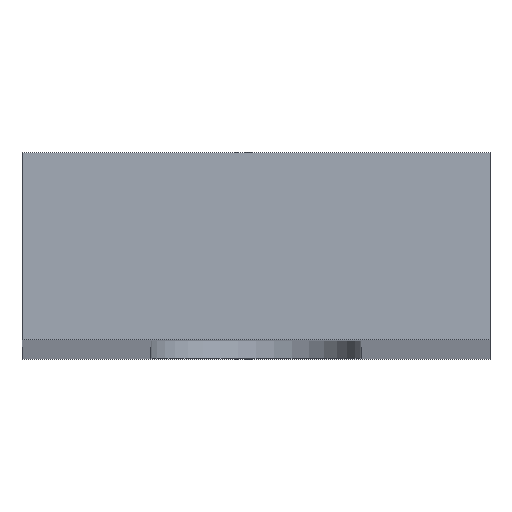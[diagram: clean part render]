
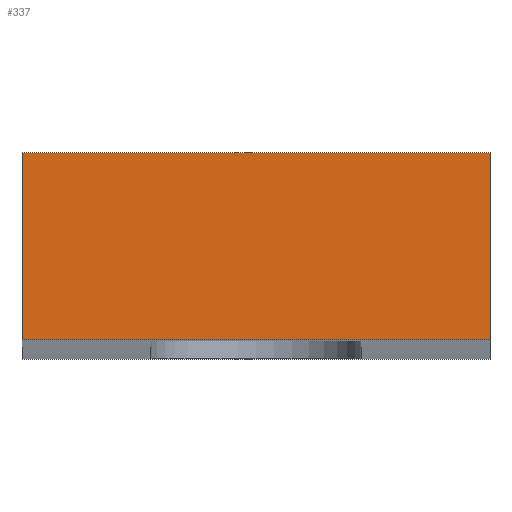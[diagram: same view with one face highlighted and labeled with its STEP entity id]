
A CAD part, top view. The second image highlights one B-rep face of the part: STEP entity #337.
In plain terms, the highlighted planar face has unit normal (0, 0, 1).
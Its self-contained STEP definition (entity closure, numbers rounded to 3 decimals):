
#24 = VERTEX_POINT('',#25);
#25 = CARTESIAN_POINT('',(-35.,-28.,120.));
#32 = PLANE('',#33);
#33 = AXIS2_PLACEMENT_3D('',#34,#35,#36);
#34 = CARTESIAN_POINT('',(-35.,-28.,-120.));
#35 = DIRECTION('',(-1.,-0.,0.));
#36 = DIRECTION('',(0.,0.,-1.));
#44 = PLANE('',#45);
#45 = AXIS2_PLACEMENT_3D('',#46,#47,#48);
#46 = CARTESIAN_POINT('',(-35.,-28.,-120.));
#47 = DIRECTION('',(-0.,1.,0.));
#48 = DIRECTION('',(0.,0.,-1.));
#85 = VERTEX_POINT('',#86);
#86 = CARTESIAN_POINT('',(-35.,-24.,120.));
#100 = PLANE('',#101);
#101 = AXIS2_PLACEMENT_3D('',#102,#103,#104);
#102 = CARTESIAN_POINT('',(-35.,-24.,-120.));
#103 = DIRECTION('',(-0.,1.,0.));
#104 = DIRECTION('',(0.,0.,-1.));
#112 = EDGE_CURVE('',#24,#85,#113,.T.);
#113 = SURFACE_CURVE('',#114,(#118,#125),.PCURVE_S1.);
#114 = LINE('',#115,#116);
#115 = CARTESIAN_POINT('',(-35.,-28.,120.));
#116 = VECTOR('',#117,1.);
#117 = DIRECTION('',(-0.,1.,0.));
#118 = PCURVE('',#32,#119);
#119 = DEFINITIONAL_REPRESENTATION('',(#120),#124);
#120 = LINE('',#121,#122);
#121 = CARTESIAN_POINT('',(-240.,-0.));
#122 = VECTOR('',#123,1.);
#123 = DIRECTION('',(-0.,-1.));
#124 = ( GEOMETRIC_REPRESENTATION_CONTEXT(2)
PARAMETRIC_REPRESENTATION_CONTEXT() REPRESENTATION_CONTEXT('2D SPACE',''
  ) );
#125 = PCURVE('',#126,#131);
#126 = PLANE('',#127);
#127 = AXIS2_PLACEMENT_3D('',#128,#129,#130);
#128 = CARTESIAN_POINT('',(-35.,-28.,120.));
#129 = DIRECTION('',(0.,0.,1.));
#130 = DIRECTION('',(1.,0.,0.));
#131 = DEFINITIONAL_REPRESENTATION('',(#132),#136);
#132 = LINE('',#133,#134);
#133 = CARTESIAN_POINT('',(0.,-0.));
#134 = VECTOR('',#135,1.);
#135 = DIRECTION('',(-0.,1.));
#136 = ( GEOMETRIC_REPRESENTATION_CONTEXT(2)
PARAMETRIC_REPRESENTATION_CONTEXT() REPRESENTATION_CONTEXT('2D SPACE',''
  ) );
#165 = EDGE_CURVE('',#24,#166,#168,.T.);
#166 = VERTEX_POINT('',#167);
#167 = CARTESIAN_POINT('',(-45.,-28.,120.));
#168 = SURFACE_CURVE('',#169,(#173,#180),.PCURVE_S1.);
#169 = LINE('',#170,#171);
#170 = CARTESIAN_POINT('',(-35.,-28.,120.));
#171 = VECTOR('',#172,1.);
#172 = DIRECTION('',(-1.,-0.,0.));
#173 = PCURVE('',#44,#174);
#174 = DEFINITIONAL_REPRESENTATION('',(#175),#179);
#175 = LINE('',#176,#177);
#176 = CARTESIAN_POINT('',(-240.,-0.));
#177 = VECTOR('',#178,1.);
#178 = DIRECTION('',(-0.,1.));
#179 = ( GEOMETRIC_REPRESENTATION_CONTEXT(2)
PARAMETRIC_REPRESENTATION_CONTEXT() REPRESENTATION_CONTEXT('2D SPACE',''
  ) );
#180 = PCURVE('',#126,#181);
#181 = DEFINITIONAL_REPRESENTATION('',(#182),#186);
#182 = LINE('',#183,#184);
#183 = CARTESIAN_POINT('',(0.,-0.));
#184 = VECTOR('',#185,1.);
#185 = DIRECTION('',(-1.,0.));
#186 = ( GEOMETRIC_REPRESENTATION_CONTEXT(2)
PARAMETRIC_REPRESENTATION_CONTEXT() REPRESENTATION_CONTEXT('2D SPACE',''
  ) );
#202 = PLANE('',#203);
#203 = AXIS2_PLACEMENT_3D('',#204,#205,#206);
#204 = CARTESIAN_POINT('',(-45.,-28.,-120.));
#205 = DIRECTION('',(-1.,-0.,0.));
#206 = DIRECTION('',(0.,0.,-1.));
#337 = ADVANCED_FACE('',(#338),#126,.T.);
#338 = FACE_BOUND('',#339,.F.);
#339 = EDGE_LOOP('',(#340,#341,#342,#365));
#340 = ORIENTED_EDGE('',*,*,#112,.F.);
#341 = ORIENTED_EDGE('',*,*,#165,.T.);
#342 = ORIENTED_EDGE('',*,*,#343,.T.);
#343 = EDGE_CURVE('',#166,#344,#346,.T.);
#344 = VERTEX_POINT('',#345);
#345 = CARTESIAN_POINT('',(-45.,-24.,120.));
#346 = SURFACE_CURVE('',#347,(#351,#358),.PCURVE_S1.);
#347 = LINE('',#348,#349);
#348 = CARTESIAN_POINT('',(-45.,-28.,120.));
#349 = VECTOR('',#350,1.);
#350 = DIRECTION('',(-0.,1.,0.));
#351 = PCURVE('',#126,#352);
#352 = DEFINITIONAL_REPRESENTATION('',(#353),#357);
#353 = LINE('',#354,#355);
#354 = CARTESIAN_POINT('',(-10.,0.));
#355 = VECTOR('',#356,1.);
#356 = DIRECTION('',(-0.,1.));
#357 = ( GEOMETRIC_REPRESENTATION_CONTEXT(2)
PARAMETRIC_REPRESENTATION_CONTEXT() REPRESENTATION_CONTEXT('2D SPACE',''
  ) );
#358 = PCURVE('',#202,#359);
#359 = DEFINITIONAL_REPRESENTATION('',(#360),#364);
#360 = LINE('',#361,#362);
#361 = CARTESIAN_POINT('',(-240.,-0.));
#362 = VECTOR('',#363,1.);
#363 = DIRECTION('',(-0.,-1.));
#364 = ( GEOMETRIC_REPRESENTATION_CONTEXT(2)
PARAMETRIC_REPRESENTATION_CONTEXT() REPRESENTATION_CONTEXT('2D SPACE',''
  ) );
#365 = ORIENTED_EDGE('',*,*,#366,.F.);
#366 = EDGE_CURVE('',#85,#344,#367,.T.);
#367 = SURFACE_CURVE('',#368,(#372,#379),.PCURVE_S1.);
#368 = LINE('',#369,#370);
#369 = CARTESIAN_POINT('',(-35.,-24.,120.));
#370 = VECTOR('',#371,1.);
#371 = DIRECTION('',(-1.,-0.,0.));
#372 = PCURVE('',#126,#373);
#373 = DEFINITIONAL_REPRESENTATION('',(#374),#378);
#374 = LINE('',#375,#376);
#375 = CARTESIAN_POINT('',(0.,4.));
#376 = VECTOR('',#377,1.);
#377 = DIRECTION('',(-1.,0.));
#378 = ( GEOMETRIC_REPRESENTATION_CONTEXT(2)
PARAMETRIC_REPRESENTATION_CONTEXT() REPRESENTATION_CONTEXT('2D SPACE',''
  ) );
#379 = PCURVE('',#100,#380);
#380 = DEFINITIONAL_REPRESENTATION('',(#381),#385);
#381 = LINE('',#382,#383);
#382 = CARTESIAN_POINT('',(-240.,-0.));
#383 = VECTOR('',#384,1.);
#384 = DIRECTION('',(-0.,1.));
#385 = ( GEOMETRIC_REPRESENTATION_CONTEXT(2)
PARAMETRIC_REPRESENTATION_CONTEXT() REPRESENTATION_CONTEXT('2D SPACE',''
  ) );
